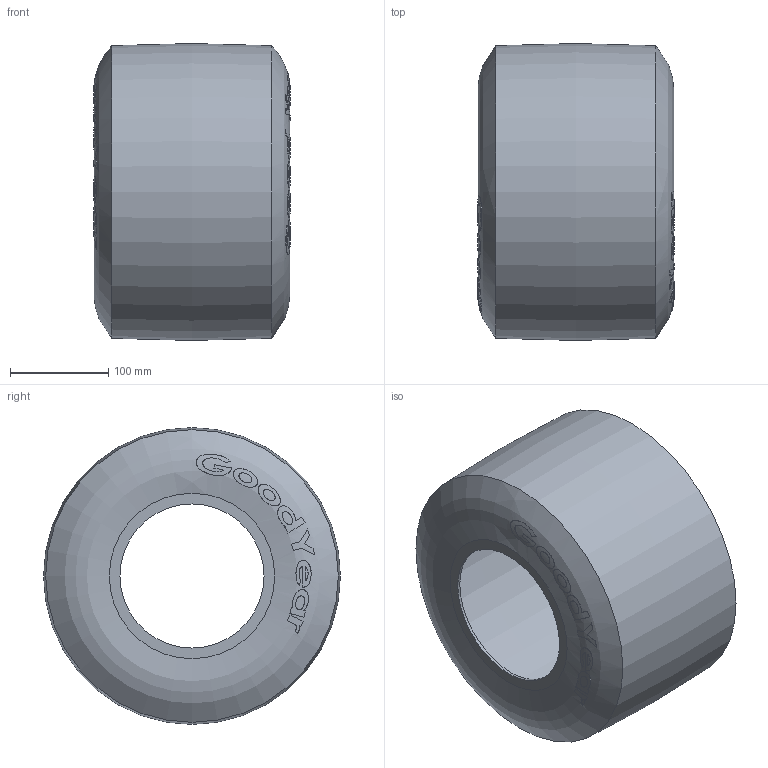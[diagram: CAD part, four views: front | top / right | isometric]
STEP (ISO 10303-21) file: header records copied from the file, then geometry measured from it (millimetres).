
FILE_DESCRIPTION(('STEP AP214'),'1');
FILE_NAME('Rear tire.stp','2015-10-06T14:44:32',(' '),(' '),'Spatial InterOp 3D',' ',' ');
FILE_SCHEMA(('automotive_design'));
Length unit declared in the file: millimetre
Products named in the file (1): Rear tire
Bounding box: 200.04 x 302.23 x 302.23 mm (x, y, z)
Volume: 793284.5 mm3; surface area: 530044.5 mm2
Topology: 1 solids, 1 shells, 418 faces, 1078 edges, 718 vertices
Faces by surface type: extrusion 217, plane 154, torus 40, cylinder 3, sphere 2, revolution 2
Full cylindrical faces by diameter (mm): 146.6 x2
Entity records: 28156 total; most frequent: CARTESIAN_POINT 15708, ORIENTED_EDGE 2136, DIRECTION 1179, EDGE_CURVE 1068, B_SPLINE_CURVE_WITH_KNOTS 809, VERTEX_POINT 716, VECTOR 609, EDGE_LOOP 484
